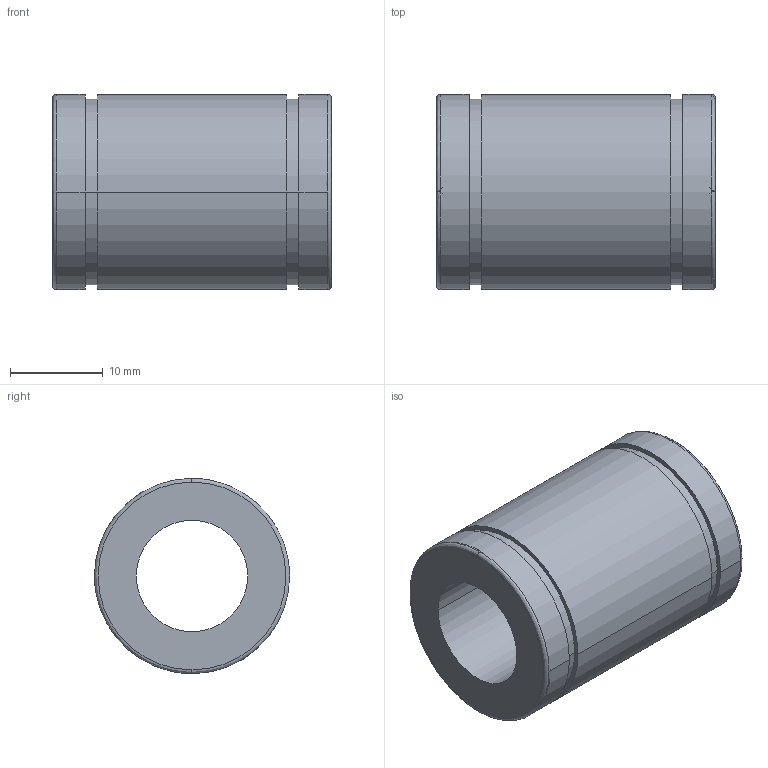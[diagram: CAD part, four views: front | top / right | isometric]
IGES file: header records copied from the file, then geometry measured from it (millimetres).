
Start section: 3D InterOp IGES (Version 21 0 1), Spatial Corp. Copyright (c) 1999-2007.
Global section: file name: N-12UU.igs; native system: Spatial Corp.; preprocessor: 3D InterOp GENERIC/IGES 3.0; author: Noname; organization: Noname; date: 20220311.145115; units: millimetre
Bounding box: 30 x 21 x 21 mm (x, y, z)
Surface area: 4149 mm2 (no closed solid volume)
Topology: 0 solids, 0 shells, 22 faces, 108 edges, 104 vertices
Faces by surface type: revolution 16, extrusion 6
